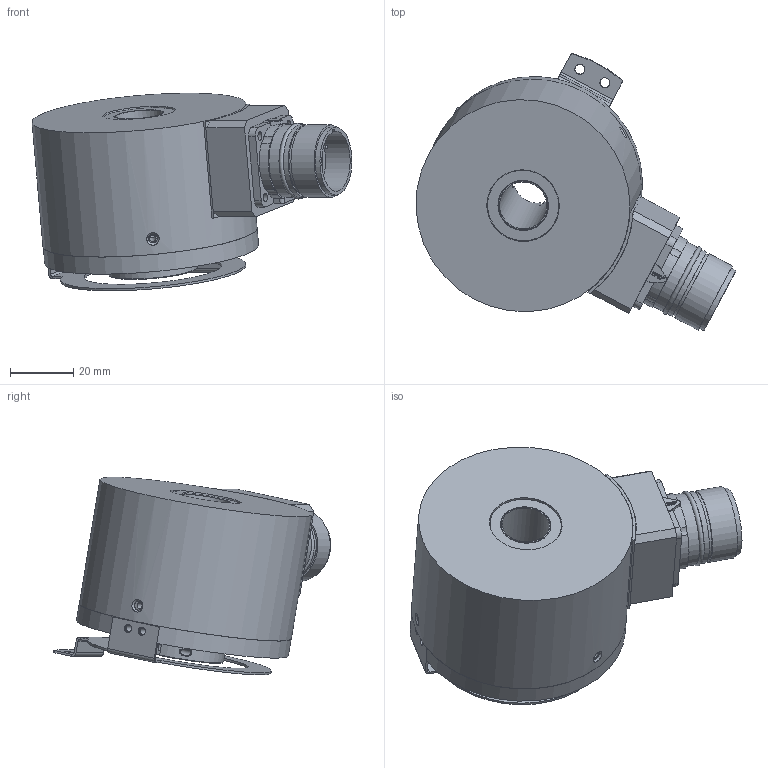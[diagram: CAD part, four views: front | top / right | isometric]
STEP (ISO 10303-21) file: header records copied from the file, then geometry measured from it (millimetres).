
FILE_DESCRIPTION(/* description */ ('','CAx-IF Rec.Pracs.---Representation and Presentation of Product Manufacturing Information (PMI)---4.0---2014-10-13'),/* implementation_level */ '2;1');
FILE_NAME(/* name */ 'C:\DESKTOP\홈페이지용 엔코더 3D 데이타 및 사진관련 자료\Encoder\Hole Type\H68\H68_32_31.stp',/* time_stamp */ '2023-08-02T11:42:16+09:00',/* author */ ('hnckhn'),/* organization */ (''),/* preprocessor_version */ 'ST-DEVELOPER v18.1',/* originating_system */ 'Autodesk Inventor 2021',/* authorisation */ '');
FILE_SCHEMA (('AP242_MANAGED_MODEL_BASED_3D_ENGINEERING_MIM_LF { 1 0 10303 442 1 1 4 }'));
Length unit declared in the file: millimetre
Products named in the file (20): H68_32_31; 3-Top_Flate; 6-CASE; PCB_SPT; 2_Shaft; 8-Bearing-6803ZZ_ASM; 618032RS1_PART1; 618032RS1_PART2; 618032RS1_PART3; 618032RS1_PART4; 618032RS1_PART5; 10-Collect_Guide; PCB_BASE; 12-OIL SEAL SB_22d6_16_3; 13-CONNECTOR_SPT; 15-TOP_FIX_SPT; EPIC__SIGNAL_M23_Insert_P_part_12______Art__Nr__73002715_3; EPIC__SIGNAL_M23_Insert_P_part_12______Art__Nr__73002715_16; EPIC__SIGNAL_M23_A1_N______Art__Nr__72004000; 13-CONNECTOR_NBR
Assembly tree (35 placements, depth 3):
  H68_32_31
    3-Top_Flate
    6-CASE
    PCB_SPT
    2_Shaft
    8-Bearing-6803ZZ_ASM  x2
      618032RS1_PART1
      618032RS1_PART2
      618032RS1_PART3
      618032RS1_PART4
      618032RS1_PART5
    10-Collect_Guide
    PCB_BASE
    12-OIL SEAL SB_22d6_16_3
    13-CONNECTOR_SPT
    15-TOP_FIX_SPT
    EPIC__SIGNAL_M23_Insert_P_part_12______Art__Nr__73002715_3
    EPIC__SIGNAL_M23_Insert_P_part_12______Art__Nr__73002715_16
    EPIC__SIGNAL_M23_A1_N______Art__Nr__72004000
    13-CONNECTOR_NBR
Bounding box: 101.21 x 87.78 x 62.54 mm (x, y, z)
Volume: 98848.8 mm3; surface area: 70275.4 mm2
Topology: 53 solids, 55 shells, 648 faces, 1753 edges, 1226 vertices
Faces by surface type: plane 290, cylinder 250, cone 49, sphere 33, torus 22, bspline 4
Full cylindrical faces by diameter (mm): 0.482 x1, 0.578 x1, 0.729 x1, 1 x1, 1.25 x12, 1.3 x13, 1.6 x1, 2 x2, 2.013 x9, 2.05 x2, 2.25 x24, 2.459 x6, 2.5 x3, 2.6 x3, 2.65 x12, 2.7 x4, 2.8 x11, 2.9 x3, 3.2 x2, 3.4 x3, 15 x3, 15.5 x1, 16 x2, 16.6 x4, 16.7 x1, 17 x6, 19.3 x8, 19.7 x1, 20 x3, 20.2 x4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
Entity records: 23524 total; most frequent: CARTESIAN_POINT 5649, DIRECTION 3944, ORIENTED_EDGE 3107, AXIS2_PLACEMENT_3D 1625, EDGE_CURVE 1556, VERTEX_POINT 1108, EDGE_LOOP 776, CIRCLE 754
